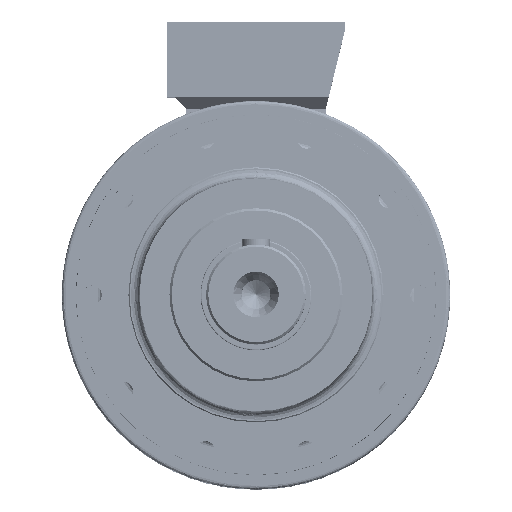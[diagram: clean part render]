
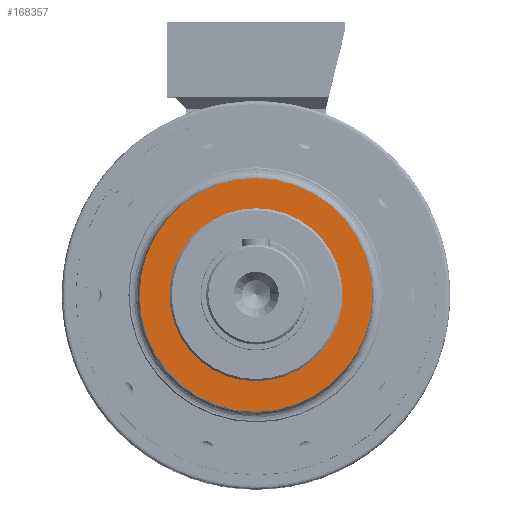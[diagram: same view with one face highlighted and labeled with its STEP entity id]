
A CAD part, top view. The second image highlights one B-rep face of the part: STEP entity #168357.
In plain terms, the highlighted planar face has unit normal (0, 0, 1).
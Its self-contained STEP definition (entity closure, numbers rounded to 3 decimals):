
#49026 = VERTEX_POINT ( 'NONE', #70593 ) ;
#49070 = VERTEX_POINT ( 'NONE', #70617 ) ;
#49176 = VERTEX_POINT ( 'NONE', #70741 ) ;
#49217 = VERTEX_POINT ( 'NONE', #70791 ) ;
#70593 = CARTESIAN_POINT ( 'NONE',  ( 0., -105., 181. ) ) ;
#70617 = CARTESIAN_POINT ( 'NONE',  ( 0., -78., 181. ) ) ;
#70741 = CARTESIAN_POINT ( 'NONE',  ( 0., 78., 181. ) ) ;
#70791 = CARTESIAN_POINT ( 'NONE',  ( 0., 105., 181. ) ) ;
#77212 = ORIENTED_EDGE ( 'NONE', *, *, #150257, .F. ) ;
#77329 = ORIENTED_EDGE ( 'NONE', *, *, #150464, .F. ) ;
#77347 = ORIENTED_EDGE ( 'NONE', *, *, #150390, .T. ) ;
#77356 = ORIENTED_EDGE ( 'NONE', *, *, #150470, .T. ) ;
#79950 = FACE_BOUND ( 'NONE', #107561, .T. ) ;
#82566 = FACE_OUTER_BOUND ( 'NONE', #107638, .T. ) ;
#89220 = CARTESIAN_POINT ( 'NONE',  ( 0., 105., 181. ) ) ;
#89221 = DIRECTION ( 'NONE',  ( 0., -1., 0. ) ) ;
#89231 = PLANE ( 'NONE',  #92441 ) ;
#89241 = DIRECTION ( 'NONE',  ( 0., 0., 1. ) ) ;
#90063 = AXIS2_PLACEMENT_3D ( 'NONE', #131631, #131635, #131632 ) ;
#90210 = AXIS2_PLACEMENT_3D ( 'NONE', #130341, #130355, #130316 ) ;
#90294 = AXIS2_PLACEMENT_3D ( 'NONE', #131277, #131273, #131274 ) ;
#90322 = AXIS2_PLACEMENT_3D ( 'NONE', #131271, #131295, #131286 ) ;
#92441 = AXIS2_PLACEMENT_3D ( 'NONE', #89220, #89241, #89221 ) ;
#102656 = CIRCLE ( 'NONE', #90210, 78. ) ;
#102681 = CIRCLE ( 'NONE', #90322, 105. ) ;
#102719 = CIRCLE ( 'NONE', #90294, 78. ) ;
#104623 = CIRCLE ( 'NONE', #90063, 105. ) ;
#107561 = EDGE_LOOP ( 'NONE', ( #77356, #77347 ) ) ;
#107638 = EDGE_LOOP ( 'NONE', ( #77212, #77329 ) ) ;
#130316 = DIRECTION ( 'NONE',  ( 0., 1., 0. ) ) ;
#130341 = CARTESIAN_POINT ( 'NONE',  ( 0., 0., 181. ) ) ;
#130355 = DIRECTION ( 'NONE',  ( 0., 0., -1. ) ) ;
#131271 = CARTESIAN_POINT ( 'NONE',  ( 0., 0., 181. ) ) ;
#131273 = DIRECTION ( 'NONE',  ( 0., 0., -1. ) ) ;
#131274 = DIRECTION ( 'NONE',  ( 0., 1., 0. ) ) ;
#131277 = CARTESIAN_POINT ( 'NONE',  ( 0., 0., 181. ) ) ;
#131286 = DIRECTION ( 'NONE',  ( 0., 1., 0. ) ) ;
#131295 = DIRECTION ( 'NONE',  ( 0., 0., -1. ) ) ;
#131631 = CARTESIAN_POINT ( 'NONE',  ( 0., 0., 181. ) ) ;
#131632 = DIRECTION ( 'NONE',  ( 0., 1., 0. ) ) ;
#131635 = DIRECTION ( 'NONE',  ( 0., 0., -1. ) ) ;
#150257 = EDGE_CURVE ( 'NONE', #49217, #49026, #104623, .T. ) ;
#150390 = EDGE_CURVE ( 'NONE', #49070, #49176, #102656, .T. ) ;
#150464 = EDGE_CURVE ( 'NONE', #49026, #49217, #102681, .T. ) ;
#150470 = EDGE_CURVE ( 'NONE', #49176, #49070, #102719, .T. ) ;
#168357 = ADVANCED_FACE ( 'NONE', ( #82566, #79950 ), #89231, .T. ) ;
